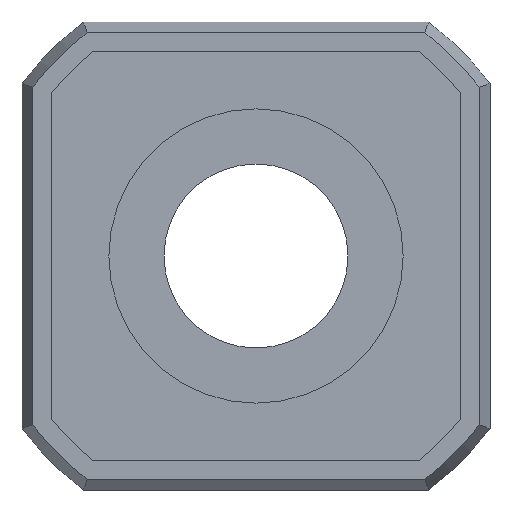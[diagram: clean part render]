
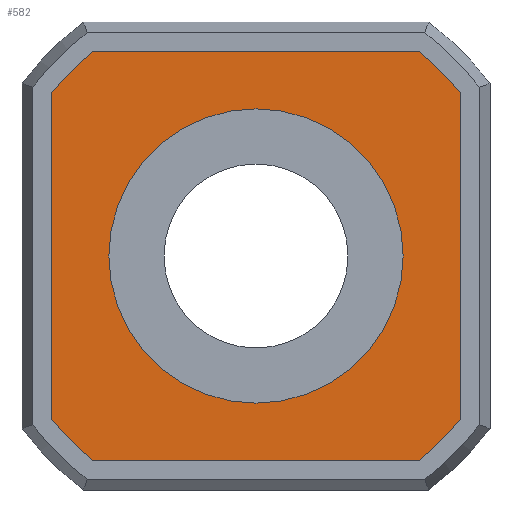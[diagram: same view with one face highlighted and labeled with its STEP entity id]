
A CAD part, front view. The second image highlights one B-rep face of the part: STEP entity #582.
In plain terms, the highlighted planar face has unit normal (0, -1, 0).
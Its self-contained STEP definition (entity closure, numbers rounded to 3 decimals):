
#33=FACE_BOUND('',#127,.T.);
#46=PLANE('',#669);
#88=FACE_OUTER_BOUND('',#126,.T.);
#126=EDGE_LOOP('',(#500,#501,#502,#503,#504,#505,#506,#507));
#127=EDGE_LOOP('',(#508));
#147=LINE('',#917,#183);
#155=LINE('',#953,#191);
#161=LINE('',#981,#197);
#164=LINE('',#994,#200);
#183=VECTOR('',#736,10.);
#191=VECTOR('',#762,10.);
#197=VECTOR('',#784,10.);
#200=VECTOR('',#803,10.);
#216=CIRCLE('',#625,3.75);
#219=CIRCLE('',#631,7.109);
#224=CIRCLE('',#641,7.109);
#228=CIRCLE('',#649,7.109);
#232=CIRCLE('',#658,7.109);
#248=VERTEX_POINT('',#878);
#253=VERTEX_POINT('',#896);
#255=VERTEX_POINT('',#899);
#260=VERTEX_POINT('',#915);
#266=VERTEX_POINT('',#937);
#270=VERTEX_POINT('',#951);
#274=VERTEX_POINT('',#965);
#278=VERTEX_POINT('',#979);
#280=VERTEX_POINT('',#990);
#304=EDGE_CURVE('',#248,#248,#216,.T.);
#310=EDGE_CURVE('',#255,#253,#219,.T.);
#318=EDGE_CURVE('',#253,#260,#147,.T.);
#327=EDGE_CURVE('',#260,#266,#224,.T.);
#333=EDGE_CURVE('',#266,#270,#155,.T.);
#339=EDGE_CURVE('',#270,#274,#228,.T.);
#345=EDGE_CURVE('',#274,#278,#161,.T.);
#351=EDGE_CURVE('',#278,#280,#232,.T.);
#352=EDGE_CURVE('',#280,#255,#164,.T.);
#500=ORIENTED_EDGE('',*,*,#310,.T.);
#501=ORIENTED_EDGE('',*,*,#318,.T.);
#502=ORIENTED_EDGE('',*,*,#327,.T.);
#503=ORIENTED_EDGE('',*,*,#333,.T.);
#504=ORIENTED_EDGE('',*,*,#339,.T.);
#505=ORIENTED_EDGE('',*,*,#345,.T.);
#506=ORIENTED_EDGE('',*,*,#351,.T.);
#507=ORIENTED_EDGE('',*,*,#352,.T.);
#508=ORIENTED_EDGE('',*,*,#304,.T.);
#582=ADVANCED_FACE('',(#88,#33),#46,.T.);
#625=AXIS2_PLACEMENT_3D('',#880,#710,#711);
#631=AXIS2_PLACEMENT_3D('',#900,#723,#724);
#641=AXIS2_PLACEMENT_3D('',#939,#752,#753);
#649=AXIS2_PLACEMENT_3D('',#967,#774,#775);
#658=AXIS2_PLACEMENT_3D('',#992,#799,#800);
#669=AXIS2_PLACEMENT_3D('',#1027,#830,#831);
#710=DIRECTION('center_axis',(0.,1.,0.));
#711=DIRECTION('ref_axis',(-1.,0.,0.));
#723=DIRECTION('center_axis',(0.,-1.,0.));
#724=DIRECTION('ref_axis',(0.805,0.,0.593));
#736=DIRECTION('',(1.,0.,0.));
#752=DIRECTION('center_axis',(0.,-1.,0.));
#753=DIRECTION('ref_axis',(-0.593,0.,0.805));
#762=DIRECTION('',(0.,0.,1.));
#774=DIRECTION('center_axis',(0.,-1.,0.));
#775=DIRECTION('ref_axis',(-1.,0.,0.));
#784=DIRECTION('',(-1.,0.,0.));
#799=DIRECTION('center_axis',(0.,-1.,0.));
#800=DIRECTION('ref_axis',(0.593,0.,-0.805));
#803=DIRECTION('',(0.,0.,-1.));
#830=DIRECTION('center_axis',(0.,-1.,0.));
#831=DIRECTION('ref_axis',(0.,0.,-1.));
#878=CARTESIAN_POINT('',(3.75,-4.,0.));
#880=CARTESIAN_POINT('Origin',(0.,-4.,0.));
#896=CARTESIAN_POINT('',(-4.419,-4.,-5.569));
#899=CARTESIAN_POINT('',(-5.569,-4.,-4.419));
#900=CARTESIAN_POINT('Origin',(0.,-4.,0.));
#915=CARTESIAN_POINT('',(4.419,-4.,-5.569));
#917=CARTESIAN_POINT('',(2.343,-4.,-5.569));
#937=CARTESIAN_POINT('',(5.569,-4.,-4.419));
#939=CARTESIAN_POINT('Origin',(0.,-4.,0.));
#951=CARTESIAN_POINT('',(5.569,-4.,4.419));
#953=CARTESIAN_POINT('',(5.569,-4.,2.343));
#965=CARTESIAN_POINT('',(4.419,-4.,5.569));
#967=CARTESIAN_POINT('Origin',(0.,-4.,0.));
#979=CARTESIAN_POINT('',(-4.419,-4.,5.569));
#981=CARTESIAN_POINT('',(-2.343,-4.,5.569));
#990=CARTESIAN_POINT('',(-5.569,-4.,4.419));
#992=CARTESIAN_POINT('Origin',(0.,-4.,0.));
#994=CARTESIAN_POINT('',(-5.569,-4.,-2.343));
#1027=CARTESIAN_POINT('Origin',(0.,-4.,0.));
